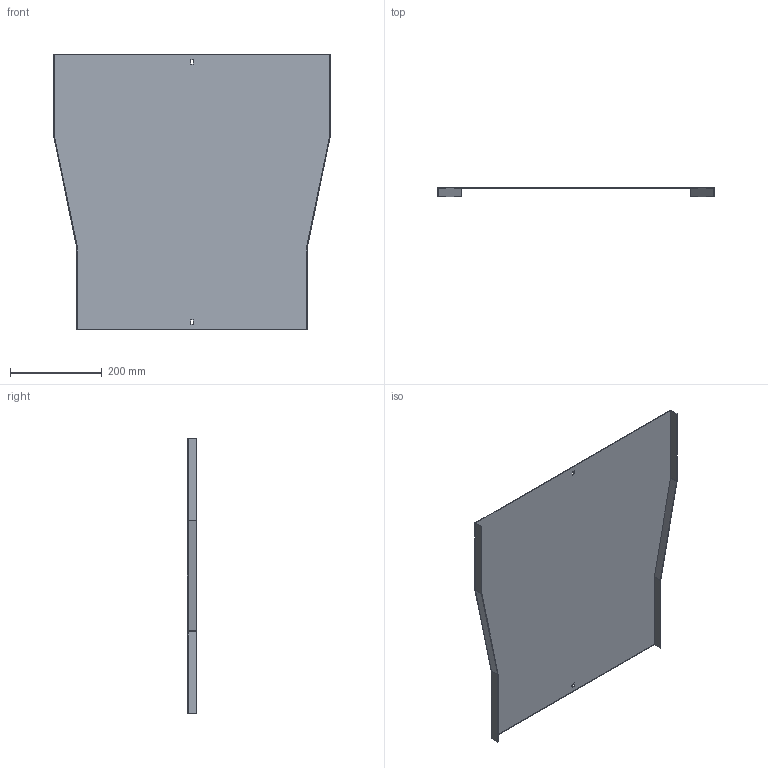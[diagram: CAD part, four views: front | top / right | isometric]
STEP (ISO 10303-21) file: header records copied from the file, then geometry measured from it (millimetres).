
FILE_DESCRIPTION (( 'STEP AP214' ), '1' );
FILE_NAME ('B2X20N5R600X.step', '2025-09-02T15:44:09', ( '' ), ( '' ), 'SwSTEP 2.0', 'SolidWorks 2023', '' );
FILE_SCHEMA (( 'AUTOMOTIVE_DESIGN' ));
Length unit declared in the file: millimetre
Products named in the file (1): B2X20N5R600X
Bounding box: 603 x 20 x 600 mm (x, y, z)
Volume: 531110.5 mm3; surface area: 711825.8 mm2
Topology: 1 solids, 1 shells, 26 faces, 72 edges, 48 vertices
Faces by surface type: plane 26
Entity records: 847 total; most frequent: CARTESIAN_POINT 147, ORIENTED_EDGE 144, DIRECTION 126, LINE 72, VECTOR 72, EDGE_CURVE 72, VERTEX_POINT 48, EDGE_LOOP 30
